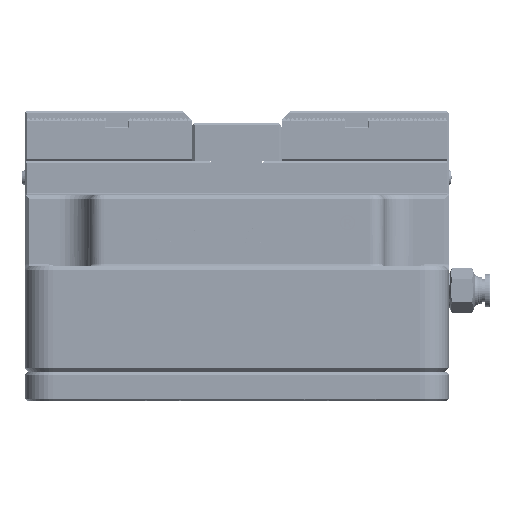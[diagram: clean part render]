
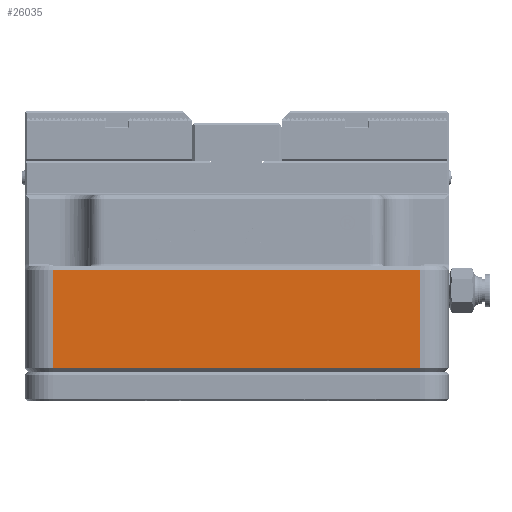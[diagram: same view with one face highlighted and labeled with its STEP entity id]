
A CAD part, left-side view. The second image highlights one B-rep face of the part: STEP entity #26035.
In plain terms, the highlighted planar face has unit normal (-1, 0, 0).
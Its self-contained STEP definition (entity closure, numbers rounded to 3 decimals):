
#7801=LINE('',#192649,#12141);
#7802=LINE('',#192652,#12142);
#7803=LINE('',#192654,#12143);
#7804=LINE('',#192656,#12144);
#12141=VECTOR('',#76568,1.);
#12142=VECTOR('',#76569,1.);
#12143=VECTOR('',#76570,1.);
#12144=VECTOR('',#76571,1.);
#26035=ADVANCED_FACE('',(#30531),#28218,.F.);
#28218=PLANE('',#66831);
#30531=FACE_OUTER_BOUND('',#33570,.T.);
#33570=EDGE_LOOP('',(#45894,#45895,#45896,#45897));
#45894=ORIENTED_EDGE('',*,*,#61332,.T.);
#45895=ORIENTED_EDGE('',*,*,#61333,.T.);
#45896=ORIENTED_EDGE('',*,*,#61334,.T.);
#45897=ORIENTED_EDGE('',*,*,#61335,.T.);
#54401=VERTEX_POINT('',#192650);
#54402=VERTEX_POINT('',#192651);
#54403=VERTEX_POINT('',#192653);
#54404=VERTEX_POINT('',#192655);
#61332=EDGE_CURVE('',#54401,#54402,#7801,.T.);
#61333=EDGE_CURVE('',#54402,#54403,#7802,.T.);
#61334=EDGE_CURVE('',#54403,#54404,#7803,.T.);
#61335=EDGE_CURVE('',#54404,#54401,#7804,.T.);
#66831=AXIS2_PLACEMENT_3D('',#192657,#76572,#76573);
#76568=DIRECTION('',(0.,0.,-1.));
#76569=DIRECTION('',(0.,-1.,0.));
#76570=DIRECTION('',(0.,0.,1.));
#76571=DIRECTION('',(0.,1.,0.));
#76572=DIRECTION('',(1.,0.,0.));
#76573=DIRECTION('',(0.,0.,-1.));
#192649=CARTESIAN_POINT('',(-75.,65.,35.));
#192650=CARTESIAN_POINT('',(-75.,65.,36.2));
#192651=CARTESIAN_POINT('',(-75.,65.,1.5));
#192652=CARTESIAN_POINT('',(-75.,-100.,1.5));
#192653=CARTESIAN_POINT('',(-75.,-65.,1.5));
#192654=CARTESIAN_POINT('',(-75.,-65.,35.));
#192655=CARTESIAN_POINT('',(-75.,-65.,36.2));
#192656=CARTESIAN_POINT('',(-75.,-100.,36.2));
#192657=CARTESIAN_POINT('',(-75.,-100.,35.));
